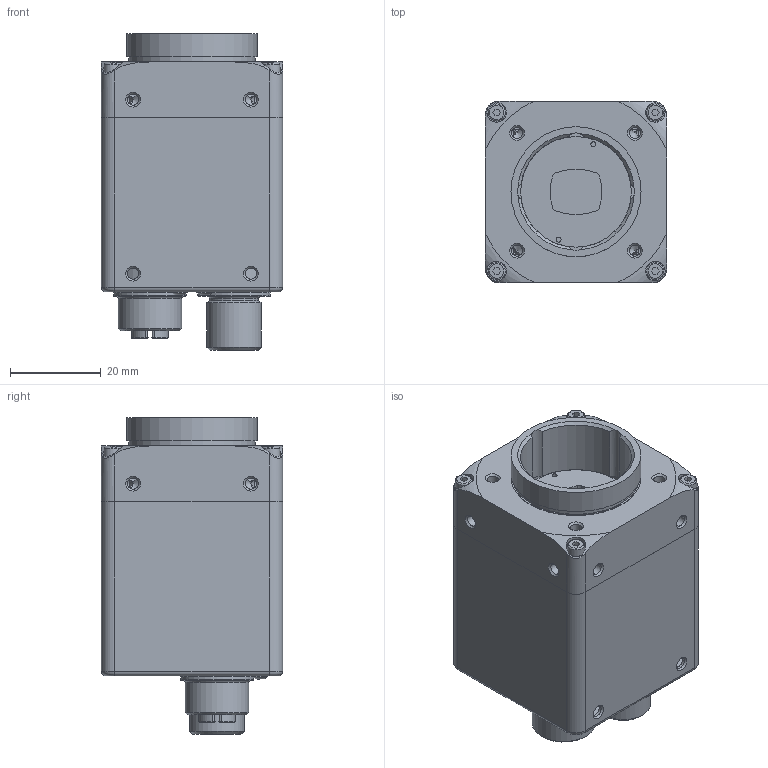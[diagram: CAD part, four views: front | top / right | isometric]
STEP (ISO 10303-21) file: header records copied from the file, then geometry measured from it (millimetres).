
FILE_DESCRIPTION( ( 'Unknown' ), '1' );
FILE_NAME( 'C:/Users/rih/Desktop/11194318_VCXG-15M.I.stp', '14.10.2014', ( 'Unknown' ), ( 'Unknown' ), 'PSStep 15.0.49', 'Unknown', ' ' );
FILE_SCHEMA( ( 'AUTOMOTIVE_DESIGN { 1 0 10303 214 1 1 1 1 }' ) );
Length unit declared in the file: millimetre
Products named in the file (17): Assem1; 11096515; 11036870; 11035909; 11115191; 11096517; 11149137_Volumenmodell; M12-ST-12S-A-PIP_2130000; M12-BU-8S-PIP_1920000; 11183757_Volumenmodell; 11183759_Volumenmodell; 11149130; IMX273
Assembly tree (20 placements, depth 2):
  Assem1
    11096515
    11036870  x2
    11035909
    11115191  x4
    11096517
    11149137_Volumenmodell
    M12-ST-12S-A-PIP_2130000
    M12-BU-8S-PIP_1920000
    11183757_Volumenmodell
    11183759_Volumenmodell
    11149130
    IMX273
    IMX273
    IMX273
    IMX273
    IMX273
Bounding box: 40 x 40 x 69.9 mm (x, y, z)
Volume: 26312 mm3; surface area: 31489.7 mm2
Topology: 20 solids, 20 shells, 1498 faces, 3707 edges, 2473 vertices
Faces by surface type: plane 701, cylinder 567, torus 88, cone 67, sphere 36, extrusion 20, bspline 19
Full cylindrical faces by diameter (mm): 0.217 x2, 0.6 x149, 0.63 x12, 0.7 x8, 0.75 x1, 0.8 x8, 0.85 x1, 1 x3, 1.1 x14, 1.24 x8, 2 x6, 2.4 x4, 2.459 x26, 2.8 x2, 2.92 x2, 3.4 x2, 3.8 x4, 8 x2, 8.25 x1, 8.3 x1, 8.4 x1, 8.9 x1, 9 x1, 9.3 x2, 9.4 x1, 10 x1, 10.2 x1, 10.75 x1, 11 x1, 12 x3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
Entity records: 54999 total; most frequent: CARTESIAN_POINT 11716, DIRECTION 6658, ORIENTED_EDGE 5752, EDGE_CURVE 2876, AXIS2_PLACEMENT_3D 2653, VERTEX_POINT 2124, EDGE_LOOP 2122, FACE_OUTER_BOUND 1772
